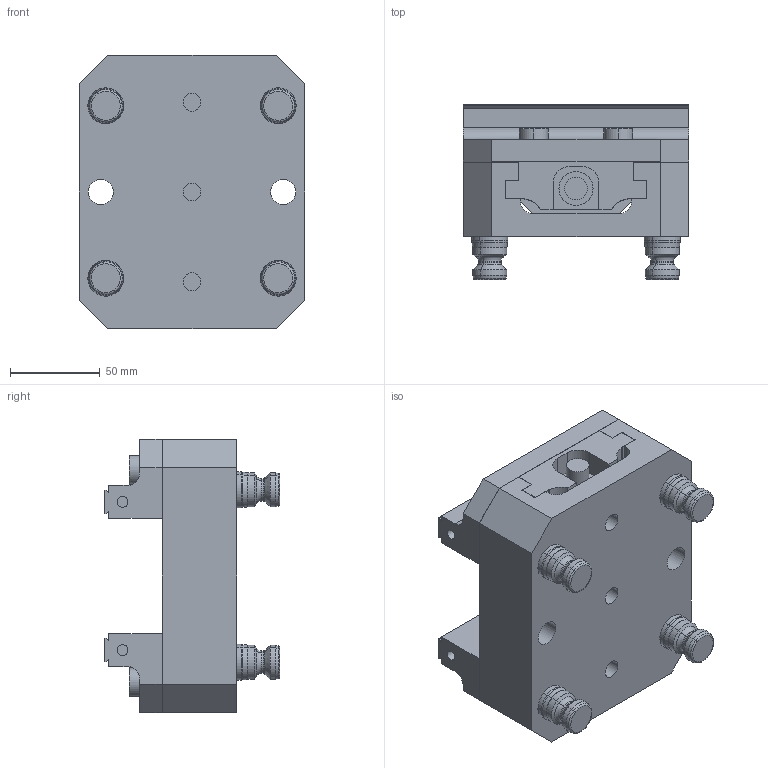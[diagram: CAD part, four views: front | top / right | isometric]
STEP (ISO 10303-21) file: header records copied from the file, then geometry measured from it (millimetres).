
FILE_DESCRIPTION (( 'STEP AP214' ), '1' );
FILE_NAME ('D_R96-V562M.STEP', '2020-03-13T22:12:51', ( '' ), ( '' ), 'SwSTEP 2.0', 'SolidWorks 2018', '' );
FILE_SCHEMA (( 'AUTOMOTIVE_DESIGN' ));
Length unit declared in the file: millimetre
Products named in the file (6): D_V562M-5; D_PS20F_HARD TURN; D_R96-V562M; D_V562M-1; D_V562M; D_V562M-2
Assembly tree (10 placements, depth 3):
  D_R96-V562M
    D_V562M
      D_V562M-1
      D_V562M-2  x2
      D_V562M-5  x2
    D_PS20F_HARD TURN  x4
Bounding box: 125.73 x 97.65 x 152.4 mm (x, y, z)
Volume: 846087.6 mm3; surface area: 166259.8 mm2
Topology: 9 solids, 9 shells, 403 faces, 954 edges, 588 vertices
Faces by surface type: plane 157, cylinder 142, torus 64, cone 40
Entity records: 7324 total; most frequent: CARTESIAN_POINT 1252, DIRECTION 1111, ORIENTED_EDGE 998, EDGE_CURVE 499, AXIS2_PLACEMENT_3D 411, VERTEX_POINT 318, LINE 289, VECTOR 289
